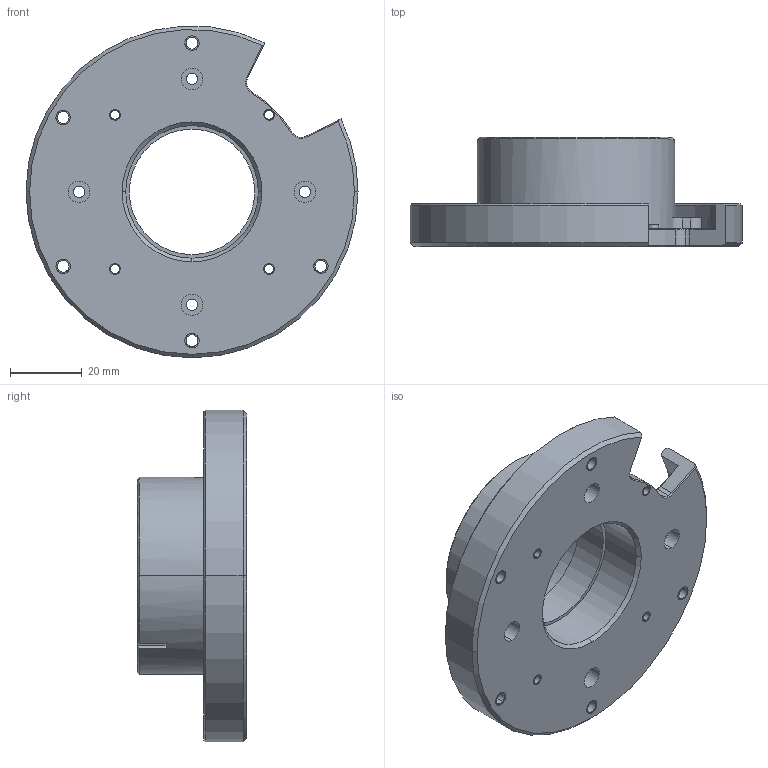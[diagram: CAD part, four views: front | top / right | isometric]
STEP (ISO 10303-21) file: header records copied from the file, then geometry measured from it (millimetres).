
FILE_DESCRIPTION (( 'STEP AP214' ), '1' );
FILE_NAME ('-RO80聆彸隅赽馱蚾-A.stp', '2024-03-30T01:58:59', ( '' ), ( '' ), 'SwSTEP 2.0', 'SolidWorks 2022', '' );
FILE_SCHEMA (( 'AUTOMOTIVE_DESIGN' ));
Length unit declared in the file: millimetre
Products named in the file (1): -RO80测试定子工装-A
Bounding box: 92.6 x 30.5 x 92.54 mm (x, y, z)
Surface area: 24771.2 mm2 (no closed solid volume)
Topology: 0 solids, 10 shells, 159 faces, 437 edges, 291 vertices
Faces by surface type: cylinder 93, plane 38, cone 28
Entity records: 5874 total; most frequent: CARTESIAN_POINT 1781, DIRECTION 853, ORIENTED_EDGE 818, EDGE_CURVE 437, AXIS2_PLACEMENT_3D 355, VERTEX_POINT 291, EDGE_LOOP 198, CIRCLE 195
